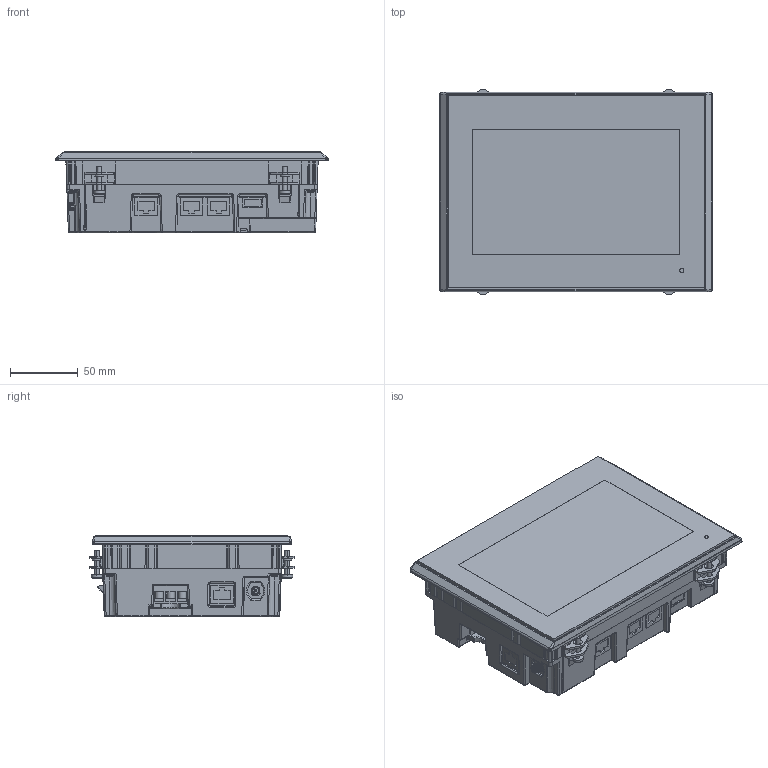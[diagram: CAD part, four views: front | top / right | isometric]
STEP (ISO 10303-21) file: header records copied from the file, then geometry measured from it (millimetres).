
FILE_DESCRIPTION((''),'2;1');
FILE_NAME('V9071IWRLD_3D-DATA','2015-02-03T',('oda'),('Hakko Electronics Co.,Ltd.'),'PRO/ENGINEER BY PARAMETRIC TECHNOLOGY CORPORATION, 2011330','PRO/ENGINEER BY PARAMETRIC TECHNOLOGY CORPORATION, 2011330','');
FILE_SCHEMA(('CONFIG_CONTROL_DESIGN'));
Products named in the file (1): V9071IWRLD_3D-DATA
Bounding box: 201.6 x 151.6 x 60.3 mm (x, y, z)
Volume: 1424844.1 mm3; surface area: 112829.8 mm2
Topology: 1 solids, 1 shells, 1902 faces, 5055 edges, 3200 vertices
Faces by surface type: plane 1197, cylinder 418, bspline 145, cone 67, sphere 43, torus 32
Entity records: 73493 total; most frequent: CARTESIAN_POINT 27747, ORIENTED_EDGE 10106, DIRECTION 8465, EDGE_CURVE 5053, VECTOR 3631, LINE 3631, VERTEX_POINT 3200, AXIS2_PLACEMENT_3D 2417
